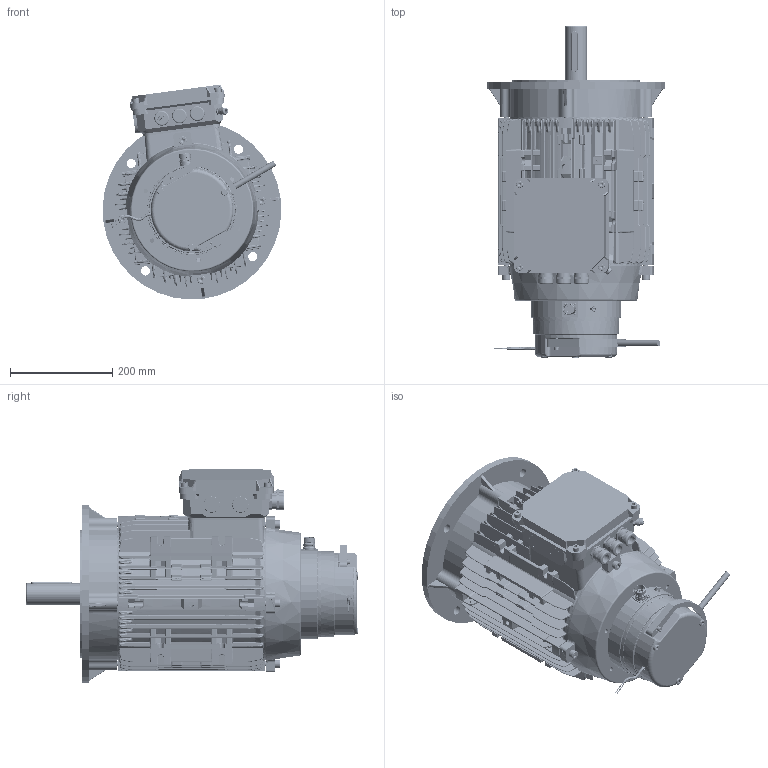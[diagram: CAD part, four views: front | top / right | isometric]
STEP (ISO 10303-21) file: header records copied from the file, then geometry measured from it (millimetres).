
FILE_DESCRIPTION(/* description */ (''),/* implementation_level */ '2;1');
FILE_NAME(/* name */ 'Z:\SITO WEB 2024\Motori\Motori PMAC\D.240 mm\PMAC-B5.160-T100.stp',/* time_stamp */ '2024-01-26T16:31:45+01:00',/* author */ ('cad3'),/* organization */ (''),/* preprocessor_version */ 'ST-DEVELOPER v18.1',/* originating_system */ 'Autodesk Inventor 2022',/* authorisation */ '');
FILE_SCHEMA (('AUTOMOTIVE_DESIGN { 1 0 10303 214 3 1 1 }'));
Products named in the file (1): PMAC-B5.160-T100
Bounding box: 349.69 x 649.6 x 420.46 mm (x, y, z)
Volume: 9270699.7 mm3; surface area: 2360088.8 mm2
Topology: 3 solids, 26 shells, 8654 faces, 21827 edges, 13444 vertices
Faces by surface type: plane 3047, bspline 2907, cylinder 2053, cone 484, torus 112, sphere 51
Full cylindrical faces by diameter (mm): 0.9 x12, 1.88 x2, 2 x10, 2.459 x2, 2.9 x8, 3.2 x4, 4 x1, 4.917 x9, 5 x18, 5.5 x2, 6 x3, 6.5 x4, 6.647 x6, 6.8 x4, 7 x2, 7.34 x2, 7.5 x2, 8 x8, 8.2 x3, 8.376 x8, 8.4 x4, 8.5 x6, 9.5 x5, 10 x13, 10.106 x1, 10.376 x1, 10.4 x2, 10.5 x8, 11 x13, 12 x10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
Entity records: 475747 total; most frequent: CARTESIAN_POINT 275315, ORIENTED_EDGE 43418, DIRECTION 36434, EDGE_CURVE 21709, AXIS2_PLACEMENT_3D 14092, VERTEX_POINT 13436, EDGE_LOOP 9147, STYLED_ITEM 8645
